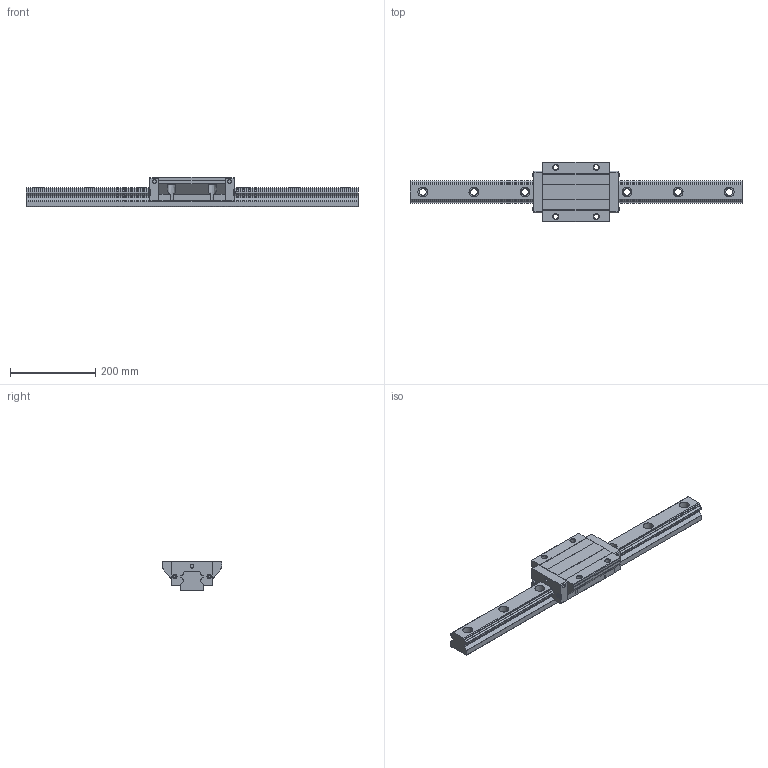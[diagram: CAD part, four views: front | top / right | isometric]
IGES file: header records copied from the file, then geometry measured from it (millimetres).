
Start section: START RECORD GO HERE.
Global section: file name: SBG55_FLL.igs; native system: IBM CATIA IGES - CATIA Version 5 Release 16 ; preprocessor: CATIA Version 5 Release 16 ; author: mycom; organization: RD03; date: 20070228.150231; units: millimetre
Bounding box: 780 x 140 x 70 mm (x, y, z)
Surface area: 293930.5 mm2 (no closed solid volume)
Topology: 0 solids, 0 shells, 319 faces, 1744 edges, 1744 vertices
Faces by surface type: revolution 173, plane 146
